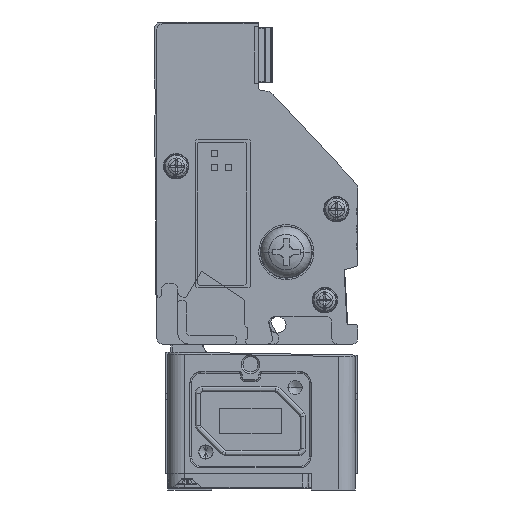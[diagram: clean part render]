
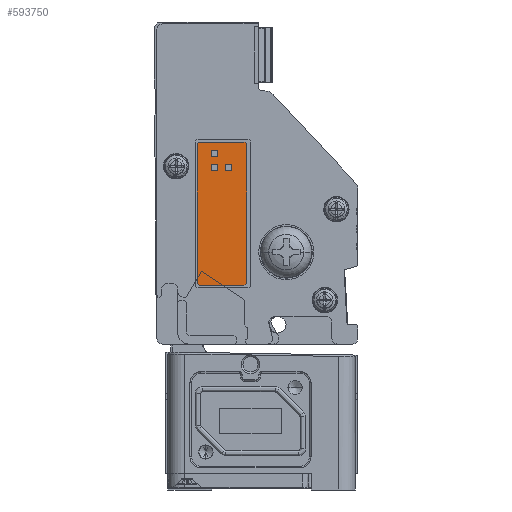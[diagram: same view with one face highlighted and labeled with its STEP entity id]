
A CAD part, front view. The second image highlights one B-rep face of the part: STEP entity #593750.
In plain terms, the highlighted planar face has unit normal (0, -1, 0).
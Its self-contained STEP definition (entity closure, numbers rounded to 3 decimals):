
#591980=CARTESIAN_POINT('',(9.8,-1239.8,
50.2));
#591990=DIRECTION('',(0.,-1.,0.));
#592000=DIRECTION('',(1.,0.,0.));
#592010=AXIS2_PLACEMENT_3D('',#591980,#591990,#592000);
#592020=PLANE('',#592010);
#592030=CARTESIAN_POINT('',(5.8,-1239.8,
62.7));
#592040=DIRECTION('',(0.,-1.,0.));
#592050=DIRECTION('',(0.,0.,1.));
#592060=AXIS2_PLACEMENT_3D('',#592030,#592040,#592050);
#592070=CIRCLE('',#592060,0.5);
#592080=CARTESIAN_POINT('',(5.8,-1239.8,
63.2));
#592090=VERTEX_POINT('',#592080);
#592100=CARTESIAN_POINT('',(5.3,-1239.8,
62.7));
#592110=VERTEX_POINT('',#592100);
#592120=EDGE_CURVE('',#592090,#592110,#592070,.T.);
#592130=ORIENTED_EDGE('',*,*,#592120,.T.);
#592140=CARTESIAN_POINT('',(5.8,-1239.8,
63.2));
#592150=DIRECTION('',(1.,0.,0.));
#592160=VECTOR('',#592150,1.);
#592170=LINE('',#592140,#592160);
#592180=CARTESIAN_POINT('',(13.8,-1239.8,
63.2));
#592190=VERTEX_POINT('',#592180);
#592200=EDGE_CURVE('',#592090,#592190,#592170,.T.);
#592210=ORIENTED_EDGE('',*,*,#592200,.F.);
#592220=CARTESIAN_POINT('',(13.8,-1239.8,
62.7));
#592230=DIRECTION('',(0.,-1.,0.));
#592240=DIRECTION('',(0.,0.,1.));
#592250=AXIS2_PLACEMENT_3D('',#592220,#592230,#592240);
#592260=CIRCLE('',#592250,0.5);
#592270=CARTESIAN_POINT('',(14.3,-1239.8,
62.7));
#592280=VERTEX_POINT('',#592270);
#592290=EDGE_CURVE('',#592280,#592190,#592260,.T.);
#592300=ORIENTED_EDGE('',*,*,#592290,.T.);
#592310=CARTESIAN_POINT('',(14.3,-1239.8,
62.7));
#592320=DIRECTION('',(0.,0.,-1.));
#592330=VECTOR('',#592320,1.);
#592340=LINE('',#592310,#592330);
#592350=CARTESIAN_POINT('',(14.3,-1239.8,
37.7));
#592360=VERTEX_POINT('',#592350);
#592370=EDGE_CURVE('',#592280,#592360,#592340,.T.);
#592380=ORIENTED_EDGE('',*,*,#592370,.F.);
#592390=CARTESIAN_POINT('',(13.8,-1239.8,
37.7));
#592400=DIRECTION('',(0.,-1.,0.));
#592410=DIRECTION('',(0.,0.,1.));
#592420=AXIS2_PLACEMENT_3D('',#592390,#592400,#592410);
#592430=CIRCLE('',#592420,0.5);
#592440=CARTESIAN_POINT('',(13.8,-1239.8,
37.2));
#592450=VERTEX_POINT('',#592440);
#592460=EDGE_CURVE('',#592450,#592360,#592430,.T.);
#592470=ORIENTED_EDGE('',*,*,#592460,.T.);
#592480=CARTESIAN_POINT('',(13.8,-1239.8,
37.2));
#592490=DIRECTION('',(-1.,0.,0.));
#592500=VECTOR('',#592490,1.);
#592510=LINE('',#592480,#592500);
#592520=CARTESIAN_POINT('',(5.8,-1239.8,
37.2));
#592530=VERTEX_POINT('',#592520);
#592540=EDGE_CURVE('',#592450,#592530,#592510,.T.);
#592550=ORIENTED_EDGE('',*,*,#592540,.F.);
#592560=CARTESIAN_POINT('',(5.8,-1239.8,
37.7));
#592570=DIRECTION('',(0.,-1.,0.));
#592580=DIRECTION('',(0.,0.,1.));
#592590=AXIS2_PLACEMENT_3D('',#592560,#592570,#592580);
#592600=CIRCLE('',#592590,0.5);
#592610=CARTESIAN_POINT('',(5.3,-1239.8,
37.7));
#592620=VERTEX_POINT('',#592610);
#592630=EDGE_CURVE('',#592620,#592530,#592600,.T.);
#592640=ORIENTED_EDGE('',*,*,#592630,.T.);
#592650=CARTESIAN_POINT('',(5.3,-1239.8,
37.7));
#592660=DIRECTION('',(0.,0.,1.));
#592670=VECTOR('',#592660,1.);
#592680=LINE('',#592650,#592670);
#592690=EDGE_CURVE('',#592620,#592110,#592680,.T.);
#592700=ORIENTED_EDGE('',*,*,#592690,.F.);
#592710=EDGE_LOOP('',(#592700,#592640,#592550,#592470,#592380,#592300,
#592210,#592130));
#592720=FACE_OUTER_BOUND('',#592710,.T.);
#592730=CARTESIAN_POINT('',(9.8,-1239.8,
58.089));
#592740=DIRECTION('',(-1.,0.,0.));
#592750=VECTOR('',#592740,1.);
#592760=LINE('',#592730,#592750);
#592770=CARTESIAN_POINT('',(11.605,-1239.8,
58.089));
#592780=VERTEX_POINT('',#592770);
#592790=CARTESIAN_POINT('',(10.506,-1239.8,
58.089));
#592800=VERTEX_POINT('',#592790);
#592810=EDGE_CURVE('',#592780,#592800,#592760,.T.);
#592820=ORIENTED_EDGE('',*,*,#592810,.T.);
#592830=CARTESIAN_POINT('',(11.605,-1239.8,
50.2));
#592840=DIRECTION('',(0.,0.,-1.));
#592850=VECTOR('',#592840,1.);
#592860=LINE('',#592830,#592850);
#592870=CARTESIAN_POINT('',(11.605,-1239.8,
59.188));
#592880=VERTEX_POINT('',#592870);
#592890=EDGE_CURVE('',#592880,#592780,#592860,.T.);
#592900=ORIENTED_EDGE('',*,*,#592890,.T.);
#592910=CARTESIAN_POINT('',(9.8,-1239.8,
59.188));
#592920=DIRECTION('',(1.,0.,0.));
#592930=VECTOR('',#592920,1.);
#592940=LINE('',#592910,#592930);
#592950=CARTESIAN_POINT('',(10.506,-1239.8,
59.188));
#592960=VERTEX_POINT('',#592950);
#592970=EDGE_CURVE('',#592960,#592880,#592940,.T.);
#592980=ORIENTED_EDGE('',*,*,#592970,.T.);
#592990=CARTESIAN_POINT('',(10.506,-1239.8,
50.2));
#593000=DIRECTION('',(0.,0.,1.));
#593010=VECTOR('',#593000,1.);
#593020=LINE('',#592990,#593010);
#593030=EDGE_CURVE('',#592800,#592960,#593020,.T.);
#593040=ORIENTED_EDGE('',*,*,#593030,.T.);
#593050=EDGE_LOOP('',(#593040,#592980,#592900,#592820));
#593060=FACE_BOUND('',#593050,.T.);
#593070=CARTESIAN_POINT('',(9.094,-1239.8,
50.2));
#593080=DIRECTION('',(0.,0.,-1.));
#593090=VECTOR('',#593080,1.);
#593100=LINE('',#593070,#593090);
#593110=CARTESIAN_POINT('',(9.094,-1239.8,
59.188));
#593120=VERTEX_POINT('',#593110);
#593130=CARTESIAN_POINT('',(9.094,-1239.8,
58.089));
#593140=VERTEX_POINT('',#593130);
#593150=EDGE_CURVE('',#593120,#593140,#593100,.T.);
#593160=ORIENTED_EDGE('',*,*,#593150,.T.);
#593170=CARTESIAN_POINT('',(9.8,-1239.8,
59.188));
#593180=DIRECTION('',(1.,0.,0.));
#593190=VECTOR('',#593180,1.);
#593200=LINE('',#593170,#593190);
#593210=CARTESIAN_POINT('',(7.995,-1239.8,
59.188));
#593220=VERTEX_POINT('',#593210);
#593230=EDGE_CURVE('',#593220,#593120,#593200,.T.);
#593240=ORIENTED_EDGE('',*,*,#593230,.T.);
#593250=CARTESIAN_POINT('',(7.995,-1239.8,
50.2));
#593260=DIRECTION('',(0.,0.,1.));
#593270=VECTOR('',#593260,1.);
#593280=LINE('',#593250,#593270);
#593290=CARTESIAN_POINT('',(7.995,-1239.8,
58.089));
#593300=VERTEX_POINT('',#593290);
#593310=EDGE_CURVE('',#593300,#593220,#593280,.T.);
#593320=ORIENTED_EDGE('',*,*,#593310,.T.);
#593330=CARTESIAN_POINT('',(9.8,-1239.8,
58.089));
#593340=DIRECTION('',(-1.,0.,0.));
#593350=VECTOR('',#593340,1.);
#593360=LINE('',#593330,#593350);
#593370=EDGE_CURVE('',#593140,#593300,#593360,.T.);
#593380=ORIENTED_EDGE('',*,*,#593370,.T.);
#593390=EDGE_LOOP('',(#593380,#593320,#593240,#593160));
#593400=FACE_BOUND('',#593390,.T.);
#593410=CARTESIAN_POINT('',(9.8,-1239.8,
61.7));
#593420=DIRECTION('',(1.,0.,0.));
#593430=VECTOR('',#593420,1.);
#593440=LINE('',#593410,#593430);
#593450=CARTESIAN_POINT('',(7.995,-1239.8,
61.7));
#593460=VERTEX_POINT('',#593450);
#593470=CARTESIAN_POINT('',(9.094,-1239.8,
61.7));
#593480=VERTEX_POINT('',#593470);
#593490=EDGE_CURVE('',#593460,#593480,#593440,.T.);
#593500=ORIENTED_EDGE('',*,*,#593490,.T.);
#593510=CARTESIAN_POINT('',(7.995,-1239.8,
50.2));
#593520=DIRECTION('',(0.,0.,1.));
#593530=VECTOR('',#593520,1.);
#593540=LINE('',#593510,#593530);
#593550=CARTESIAN_POINT('',(7.995,-1239.8,
60.601));
#593560=VERTEX_POINT('',#593550);
#593570=EDGE_CURVE('',#593560,#593460,#593540,.T.);
#593580=ORIENTED_EDGE('',*,*,#593570,.T.);
#593590=CARTESIAN_POINT('',(9.8,-1239.8,
60.601));
#593600=DIRECTION('',(-1.,0.,0.));
#593610=VECTOR('',#593600,1.);
#593620=LINE('',#593590,#593610);
#593630=CARTESIAN_POINT('',(9.094,-1239.8,
60.601));
#593640=VERTEX_POINT('',#593630);
#593650=EDGE_CURVE('',#593640,#593560,#593620,.T.);
#593660=ORIENTED_EDGE('',*,*,#593650,.T.);
#593670=CARTESIAN_POINT('',(9.094,-1239.8,
50.2));
#593680=DIRECTION('',(0.,0.,-1.));
#593690=VECTOR('',#593680,1.);
#593700=LINE('',#593670,#593690);
#593710=EDGE_CURVE('',#593480,#593640,#593700,.T.);
#593720=ORIENTED_EDGE('',*,*,#593710,.T.);
#593730=EDGE_LOOP('',(#593720,#593660,#593580,#593500));
#593740=FACE_BOUND('',#593730,.T.);
#593750=ADVANCED_FACE('',(#592720,#593060,#593400,#593740),#592020,.T.);
